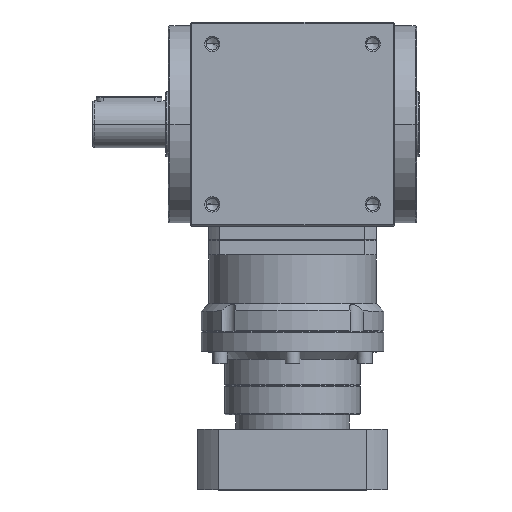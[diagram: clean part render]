
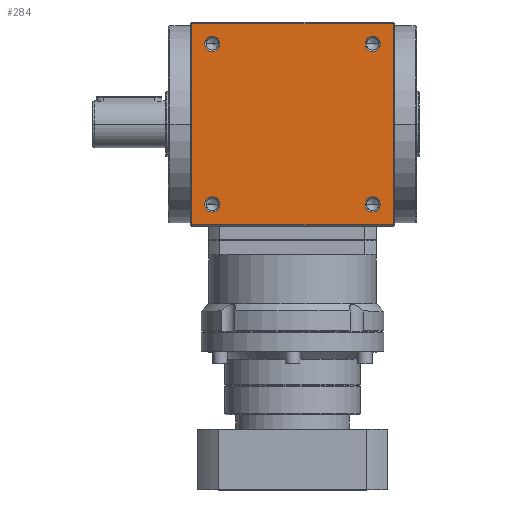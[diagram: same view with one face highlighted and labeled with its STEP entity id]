
A CAD part, top view. The second image highlights one B-rep face of the part: STEP entity #284.
In plain terms, the highlighted planar face has unit normal (0, 0, 1).
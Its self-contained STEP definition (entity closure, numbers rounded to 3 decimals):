
#27 = CARTESIAN_POINT ( 'NONE',  ( 0., 0., 70. ) ) ;
#62 = DIRECTION ( 'NONE',  ( 0., 0., 1. ) ) ;
#94 = CARTESIAN_POINT ( 'NONE',  ( 60.25, -55., 70. ) ) ;
#284 = ADVANCED_FACE ( 'NONE', ( #12901, #7765, #5629, #9828, #1058 ), #415, .F. ) ;
#362 = EDGE_LOOP ( 'NONE', ( #11860, #13507 ) ) ;
#371 = EDGE_CURVE ( 'NONE', #6171, #2146, #12269, .T. ) ;
#415 = PLANE ( 'NONE',  #2445 ) ;
#620 = CARTESIAN_POINT ( 'NONE',  ( 0., -69., 70. ) ) ;
#638 = ORIENTED_EDGE ( 'NONE', *, *, #7860, .F. ) ;
#691 = EDGE_CURVE ( 'NONE', #8755, #11133, #4013, .T. ) ;
#919 = CARTESIAN_POINT ( 'NONE',  ( 49.75, -55., 70. ) ) ;
#1058 = FACE_OUTER_BOUND ( 'NONE', #2635, .T. ) ;
#1233 = DIRECTION ( 'NONE',  ( 1., 0., 0. ) ) ;
#1244 = CIRCLE ( 'NONE', #3000, 5.25 ) ;
#1266 = ORIENTED_EDGE ( 'NONE', *, *, #11773, .F. ) ;
#1276 = EDGE_CURVE ( 'NONE', #13364, #9948, #4898, .T. ) ;
#1353 = CARTESIAN_POINT ( 'NONE',  ( 69., 0., 70. ) ) ;
#1542 = AXIS2_PLACEMENT_3D ( 'NONE', #11395, #6257, #9341 ) ;
#2074 = CIRCLE ( 'NONE', #7784, 5.25 ) ;
#2105 = VECTOR ( 'NONE', #6651, 1000. ) ;
#2146 = VERTEX_POINT ( 'NONE', #11078 ) ;
#2165 = ORIENTED_EDGE ( 'NONE', *, *, #691, .F. ) ;
#2166 = VECTOR ( 'NONE', #13059, 1000. ) ;
#2190 = CARTESIAN_POINT ( 'NONE',  ( -55., 55., 70. ) ) ;
#2237 = CARTESIAN_POINT ( 'NONE',  ( -49.75, -55., 70. ) ) ;
#2275 = ORIENTED_EDGE ( 'NONE', *, *, #1276, .F. ) ;
#2313 = VECTOR ( 'NONE', #12757, 1000. ) ;
#2335 = DIRECTION ( 'NONE',  ( 0., 0., -1. ) ) ;
#2445 = AXIS2_PLACEMENT_3D ( 'NONE', #27, #2335, #2537 ) ;
#2453 = VECTOR ( 'NONE', #5763, 1000. ) ;
#2515 = DIRECTION ( 'NONE',  ( 1., 0., 0. ) ) ;
#2537 = DIRECTION ( 'NONE',  ( -1., 0., 0. ) ) ;
#2553 = CIRCLE ( 'NONE', #8480, 5.25 ) ;
#2635 = EDGE_LOOP ( 'NONE', ( #8495, #10280, #5772, #11149 ) ) ;
#3000 = AXIS2_PLACEMENT_3D ( 'NONE', #11344, #13394, #12634 ) ;
#3428 = EDGE_CURVE ( 'NONE', #2146, #5910, #10970, .T. ) ;
#3789 = EDGE_CURVE ( 'NONE', #13121, #6015, #2553, .T. ) ;
#3816 = DIRECTION ( 'NONE',  ( 0., 0., 1. ) ) ;
#4013 = CIRCLE ( 'NONE', #9040, 5.25 ) ;
#4035 = CARTESIAN_POINT ( 'NONE',  ( -55., -55., 70. ) ) ;
#4182 = CIRCLE ( 'NONE', #1542, 5.25 ) ;
#4225 = EDGE_CURVE ( 'NONE', #7066, #12320, #1244, .T. ) ;
#4242 = DIRECTION ( 'NONE',  ( 1., 0., 0. ) ) ;
#4333 = DIRECTION ( 'NONE',  ( 0., 0., 1. ) ) ;
#4898 = CIRCLE ( 'NONE', #9502, 5.25 ) ;
#5579 = AXIS2_PLACEMENT_3D ( 'NONE', #2190, #62, #10373 ) ;
#5612 = DIRECTION ( 'NONE',  ( 0., 0., 1. ) ) ;
#5629 = FACE_BOUND ( 'NONE', #6832, .T. ) ;
#5763 = DIRECTION ( 'NONE',  ( 1., 0., 0. ) ) ;
#5772 = ORIENTED_EDGE ( 'NONE', *, *, #371, .T. ) ;
#5910 = VERTEX_POINT ( 'NONE', #12199 ) ;
#5936 = DIRECTION ( 'NONE',  ( 1., 0., 0. ) ) ;
#6015 = VERTEX_POINT ( 'NONE', #7416 ) ;
#6171 = VERTEX_POINT ( 'NONE', #7655 ) ;
#6257 = DIRECTION ( 'NONE',  ( 0., 0., 1. ) ) ;
#6430 = EDGE_CURVE ( 'NONE', #5910, #13154, #11961, .T. ) ;
#6651 = DIRECTION ( 'NONE',  ( 0., 1., 0. ) ) ;
#6832 = EDGE_LOOP ( 'NONE', ( #11039, #7246 ) ) ;
#7066 = VERTEX_POINT ( 'NONE', #10972 ) ;
#7194 = CARTESIAN_POINT ( 'NONE',  ( -60.25, 55., 70. ) ) ;
#7246 = ORIENTED_EDGE ( 'NONE', *, *, #4225, .F. ) ;
#7416 = CARTESIAN_POINT ( 'NONE',  ( 60.25, 55., 70. ) ) ;
#7500 = CARTESIAN_POINT ( 'NONE',  ( -69., 0., 70. ) ) ;
#7655 = CARTESIAN_POINT ( 'NONE',  ( -69., -69., 70. ) ) ;
#7765 = FACE_BOUND ( 'NONE', #362, .T. ) ;
#7784 = AXIS2_PLACEMENT_3D ( 'NONE', #4035, #9243, #4242 ) ;
#7860 = EDGE_CURVE ( 'NONE', #11133, #8755, #9215, .T. ) ;
#8010 = EDGE_CURVE ( 'NONE', #6015, #13121, #4182, .T. ) ;
#8291 = CARTESIAN_POINT ( 'NONE',  ( -69., 69., 70. ) ) ;
#8335 = CARTESIAN_POINT ( 'NONE',  ( -49.75, 55., 70. ) ) ;
#8480 = AXIS2_PLACEMENT_3D ( 'NONE', #13203, #3816, #5936 ) ;
#8495 = ORIENTED_EDGE ( 'NONE', *, *, #6430, .T. ) ;
#8640 = CARTESIAN_POINT ( 'NONE',  ( 55., -55., 70. ) ) ;
#8648 = CARTESIAN_POINT ( 'NONE',  ( -55., 55., 70. ) ) ;
#8755 = VERTEX_POINT ( 'NONE', #919 ) ;
#8980 = AXIS2_PLACEMENT_3D ( 'NONE', #12314, #9380, #9139 ) ;
#9040 = AXIS2_PLACEMENT_3D ( 'NONE', #8640, #5612, #2515 ) ;
#9139 = DIRECTION ( 'NONE',  ( 1., 0., 0. ) ) ;
#9215 = CIRCLE ( 'NONE', #8980, 5.25 ) ;
#9243 = DIRECTION ( 'NONE',  ( 0., 0., 1. ) ) ;
#9341 = DIRECTION ( 'NONE',  ( 1., 0., 0. ) ) ;
#9380 = DIRECTION ( 'NONE',  ( 0., 0., 1. ) ) ;
#9502 = AXIS2_PLACEMENT_3D ( 'NONE', #8648, #4333, #1233 ) ;
#9828 = FACE_BOUND ( 'NONE', #13141, .T. ) ;
#9948 = VERTEX_POINT ( 'NONE', #7194 ) ;
#10280 = ORIENTED_EDGE ( 'NONE', *, *, #12630, .T. ) ;
#10373 = DIRECTION ( 'NONE',  ( 1., 0., 0. ) ) ;
#10667 = EDGE_LOOP ( 'NONE', ( #2275, #1266 ) ) ;
#10970 = LINE ( 'NONE', #1353, #2105 ) ;
#10972 = CARTESIAN_POINT ( 'NONE',  ( -60.25, -55., 70. ) ) ;
#11039 = ORIENTED_EDGE ( 'NONE', *, *, #13131, .F. ) ;
#11078 = CARTESIAN_POINT ( 'NONE',  ( 69., -69., 70. ) ) ;
#11133 = VERTEX_POINT ( 'NONE', #94 ) ;
#11149 = ORIENTED_EDGE ( 'NONE', *, *, #3428, .T. ) ;
#11344 = CARTESIAN_POINT ( 'NONE',  ( -55., -55., 70. ) ) ;
#11395 = CARTESIAN_POINT ( 'NONE',  ( 55., 55., 70. ) ) ;
#11773 = EDGE_CURVE ( 'NONE', #9948, #13364, #13462, .T. ) ;
#11860 = ORIENTED_EDGE ( 'NONE', *, *, #8010, .F. ) ;
#11961 = LINE ( 'NONE', #12079, #2166 ) ;
#12079 = CARTESIAN_POINT ( 'NONE',  ( 0., 69., 70. ) ) ;
#12199 = CARTESIAN_POINT ( 'NONE',  ( 69., 69., 70. ) ) ;
#12269 = LINE ( 'NONE', #620, #2453 ) ;
#12314 = CARTESIAN_POINT ( 'NONE',  ( 55., -55., 70. ) ) ;
#12320 = VERTEX_POINT ( 'NONE', #2237 ) ;
#12629 = LINE ( 'NONE', #7500, #2313 ) ;
#12630 = EDGE_CURVE ( 'NONE', #13154, #6171, #12629, .T. ) ;
#12634 = DIRECTION ( 'NONE',  ( 1., 0., 0. ) ) ;
#12757 = DIRECTION ( 'NONE',  ( 0., -1., 0. ) ) ;
#12901 = FACE_BOUND ( 'NONE', #10667, .T. ) ;
#13059 = DIRECTION ( 'NONE',  ( -1., 0., 0. ) ) ;
#13121 = VERTEX_POINT ( 'NONE', #13420 ) ;
#13131 = EDGE_CURVE ( 'NONE', #12320, #7066, #2074, .T. ) ;
#13141 = EDGE_LOOP ( 'NONE', ( #638, #2165 ) ) ;
#13154 = VERTEX_POINT ( 'NONE', #8291 ) ;
#13203 = CARTESIAN_POINT ( 'NONE',  ( 55., 55., 70. ) ) ;
#13364 = VERTEX_POINT ( 'NONE', #8335 ) ;
#13394 = DIRECTION ( 'NONE',  ( 0., 0., 1. ) ) ;
#13420 = CARTESIAN_POINT ( 'NONE',  ( 49.75, 55., 70. ) ) ;
#13462 = CIRCLE ( 'NONE', #5579, 5.25 ) ;
#13507 = ORIENTED_EDGE ( 'NONE', *, *, #3789, .F. ) ;
